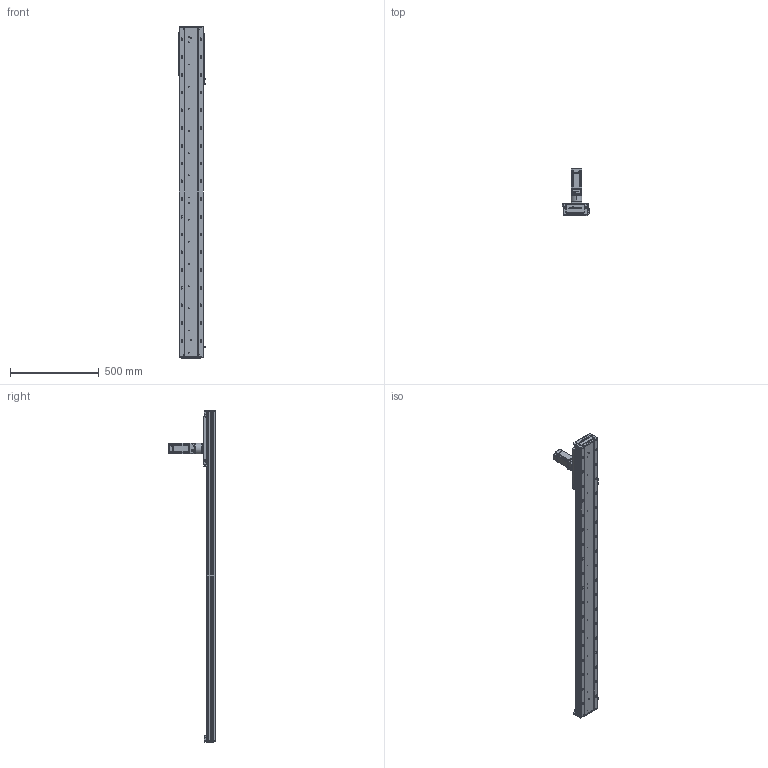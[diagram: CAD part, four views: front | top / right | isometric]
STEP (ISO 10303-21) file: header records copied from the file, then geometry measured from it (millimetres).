
FILE_DESCRIPTION (( 'STEP AP203' ), '1' );
FILE_NAME ('RY140-C-250-UK.SLDASM_1500.step', '2022-03-12T01:59:19', ( '' ), ( '' ), 'SwSTEP 2.0', 'SolidWorks 2016', '' );
FILE_SCHEMA (( 'CONFIG_CONTROL_DESIGN' ));
Length unit declared in the file: millimetre
Products named in the file (12): RY140-喘謫萇儂覃誹啣; 覜茼ん672; 絳寢賑輸EGH15; RY140-C-250-UK.SLDASM_1500; 15; 60ZDF珨撰俋倛芞T1 200W M4; RY140-喘沭裔啣; RY140-300齿条模组型材底座_1500; RY140-絳寢EGH15-300-MK_1500; 140蚥薯蝶輸; RY140-喘沭賑輸; RY120外置感应片(140共用）
Assembly tree (21 placements, depth 2):
  RY140-C-250-UK.SLDASM_1500
    RY140-300齿条模组型材底座_1500
    RY140-絳寢EGH15-300-MK_1500  x2
    絳寢賑輸EGH15  x6
    RY140-喘沭裔啣  x2
    覜茼ん672  x3
    RY140-喘沭賑輸
    RY120外置感应片(140共用）
    RY140-喘謫萇儂覃誹啣
    140蚥薯蝶輸  x2
    60ZDF珨撰俋倛芞T1 200W M4
    15
Bounding box: 153.7 x 263.5 x 1872 mm (x, y, z)
Volume: 6269448.6 mm3; surface area: 1683953.2 mm2
Topology: 21 solids, 21 shells, 3674 faces, 9820 edges, 6340 vertices
Faces by surface type: cylinder 1684, plane 1672, cone 272, bspline 46
Entity records: 84087 total; most frequent: CARTESIAN_POINT 18637, ORIENTED_EDGE 13334, DIRECTION 13331, EDGE_CURVE 6667, AXIS2_PLACEMENT_3D 4795, VERTEX_POINT 4365, VECTOR 3741, LINE 3741
